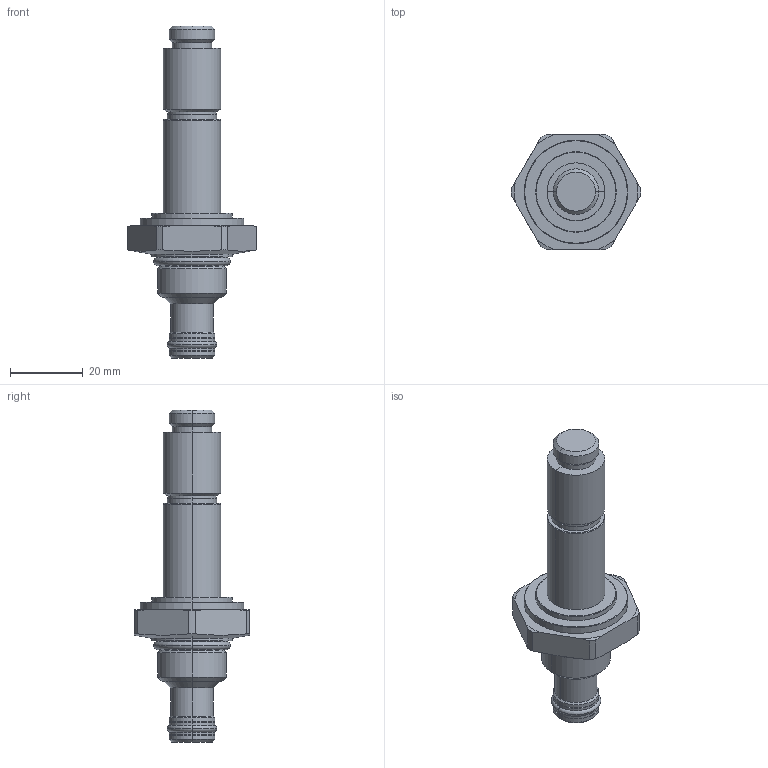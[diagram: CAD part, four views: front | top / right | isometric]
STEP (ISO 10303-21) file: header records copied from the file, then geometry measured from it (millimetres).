
FILE_DESCRIPTION((''),'2;1');
FILE_NAME('SV58-2X','2014-04-10T',('mg1'),(''),'PRO/ENGINEER BY PARAMETRIC TECHNOLOGY CORPORATION, 2013230','PRO/ENGINEER BY PARAMETRIC TECHNOLOGY CORPORATION, 2013230','');
FILE_SCHEMA(('CONFIG_CONTROL_DESIGN'));
Length unit declared in the file: millimetre
Products named in the file (1): SV58-2X
Bounding box: 35.69 x 31.75 x 91.41 mm (x, y, z)
Volume: 23400.3 mm3; surface area: 7067 mm2
Topology: 1 solids, 1 shells, 122 faces, 264 edges, 154 vertices
Faces by surface type: cylinder 50, cone 38, plane 18, torus 12, revolution 4
Entity records: 3441 total; most frequent: CARTESIAN_POINT 679, DIRECTION 630, ORIENTED_EDGE 528, AXIS2_PLACEMENT_3D 266, EDGE_CURVE 264, VERTEX_POINT 154, CIRCLE 148, EDGE_LOOP 132
